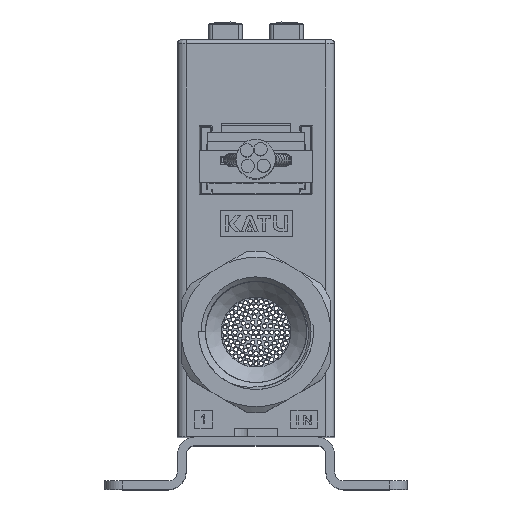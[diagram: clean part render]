
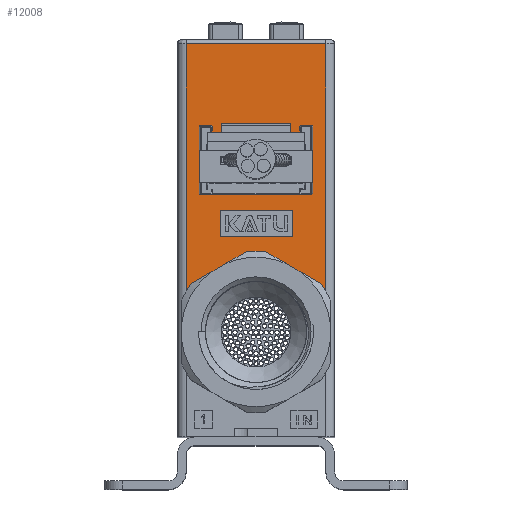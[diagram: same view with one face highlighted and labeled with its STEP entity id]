
A CAD part, top view. The second image highlights one B-rep face of the part: STEP entity #12008.
In plain terms, the highlighted planar face has unit normal (0, 0, 1).
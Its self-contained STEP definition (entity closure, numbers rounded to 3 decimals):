
#145=ELLIPSE('',#45869,0.1,0.1);
#146=ELLIPSE('',#45870,0.1,0.1);
#147=ELLIPSE('',#45871,0.1,0.1);
#148=ELLIPSE('',#45872,0.1,0.1);
#149=ELLIPSE('',#45873,0.1,0.1);
#510=LINE('',#64284,#4410);
#511=LINE('',#64287,#4411);
#512=LINE('',#64289,#4412);
#513=LINE('',#64291,#4413);
#514=LINE('',#64295,#4414);
#515=LINE('',#64297,#4415);
#516=LINE('',#64301,#4416);
#517=LINE('',#64305,#4417);
#518=LINE('',#64307,#4418);
#519=LINE('',#64309,#4419);
#520=LINE('',#64313,#4420);
#521=LINE('',#64317,#4421);
#522=LINE('',#64318,#4422);
#523=LINE('',#64323,#4423);
#524=LINE('',#64325,#4424);
#525=LINE('',#64327,#4425);
#526=LINE('',#64331,#4426);
#4410=VECTOR('',#51025,1.);
#4411=VECTOR('',#51026,1.);
#4412=VECTOR('',#51027,1.);
#4413=VECTOR('',#51028,1.);
#4414=VECTOR('',#51031,1.);
#4415=VECTOR('',#51032,1.);
#4416=VECTOR('',#51035,1.);
#4417=VECTOR('',#51038,1.);
#4418=VECTOR('',#51039,1.);
#4419=VECTOR('',#51040,1.);
#4420=VECTOR('',#51043,1.);
#4421=VECTOR('',#51046,1.);
#4422=VECTOR('',#51047,1.);
#4423=VECTOR('',#51050,1.);
#4424=VECTOR('',#51051,1.);
#4425=VECTOR('',#51052,1.);
#4426=VECTOR('',#51055,1.);
#10561=PLANE('',#45877);
#12008=ADVANCED_FACE('',(#15040,#15041,#15042),#10561,.T.);
#15040=FACE_BOUND('',#16912,.T.);
#15041=FACE_BOUND('',#16913,.T.);
#15042=FACE_BOUND('',#16914,.T.);
#16912=EDGE_LOOP('',(#21163,#21164,#21165,#21166));
#16913=EDGE_LOOP('',(#21167,#21168,#21169,#21170,#21171,#21172,#21173,#21174,
#21175,#21176,#21177,#21178,#21179));
#16914=EDGE_LOOP('',(#21180,#21181,#21182,#21183,#21184,#21185,#21186,#21187));
#21163=ORIENTED_EDGE('',*,*,#37668,.F.);
#21164=ORIENTED_EDGE('',*,*,#37669,.F.);
#21165=ORIENTED_EDGE('',*,*,#37670,.F.);
#21166=ORIENTED_EDGE('',*,*,#37671,.F.);
#21167=ORIENTED_EDGE('',*,*,#37672,.T.);
#21168=ORIENTED_EDGE('',*,*,#37673,.T.);
#21169=ORIENTED_EDGE('',*,*,#37674,.F.);
#21170=ORIENTED_EDGE('',*,*,#37675,.T.);
#21171=ORIENTED_EDGE('',*,*,#37676,.F.);
#21172=ORIENTED_EDGE('',*,*,#37677,.T.);
#21173=ORIENTED_EDGE('',*,*,#37678,.F.);
#21174=ORIENTED_EDGE('',*,*,#37679,.F.);
#21175=ORIENTED_EDGE('',*,*,#37680,.F.);
#21176=ORIENTED_EDGE('',*,*,#37681,.T.);
#21177=ORIENTED_EDGE('',*,*,#37682,.F.);
#21178=ORIENTED_EDGE('',*,*,#37683,.T.);
#21179=ORIENTED_EDGE('',*,*,#37684,.F.);
#21180=ORIENTED_EDGE('',*,*,#37685,.F.);
#21181=ORIENTED_EDGE('',*,*,#37686,.T.);
#21182=ORIENTED_EDGE('',*,*,#37687,.F.);
#21183=ORIENTED_EDGE('',*,*,#37688,.T.);
#21184=ORIENTED_EDGE('',*,*,#37689,.F.);
#21185=ORIENTED_EDGE('',*,*,#37690,.T.);
#21186=ORIENTED_EDGE('',*,*,#37691,.F.);
#21187=ORIENTED_EDGE('',*,*,#37692,.T.);
#33191=VERTEX_POINT('',#64285);
#33192=VERTEX_POINT('',#64286);
#33193=VERTEX_POINT('',#64288);
#33194=VERTEX_POINT('',#64290);
#33195=VERTEX_POINT('',#64293);
#33196=VERTEX_POINT('',#64294);
#33197=VERTEX_POINT('',#64296);
#33198=VERTEX_POINT('',#64298);
#33199=VERTEX_POINT('',#64300);
#33200=VERTEX_POINT('',#64302);
#33201=VERTEX_POINT('',#64304);
#33202=VERTEX_POINT('',#64306);
#33203=VERTEX_POINT('',#64308);
#33204=VERTEX_POINT('',#64310);
#33205=VERTEX_POINT('',#64312);
#33206=VERTEX_POINT('',#64314);
#33207=VERTEX_POINT('',#64316);
#33208=VERTEX_POINT('',#64319);
#33209=VERTEX_POINT('',#64320);
#33210=VERTEX_POINT('',#64322);
#33211=VERTEX_POINT('',#64324);
#33212=VERTEX_POINT('',#64326);
#33213=VERTEX_POINT('',#64328);
#33214=VERTEX_POINT('',#64330);
#33215=VERTEX_POINT('',#64332);
#37668=EDGE_CURVE('',#33191,#33192,#510,.T.);
#37669=EDGE_CURVE('',#33193,#33191,#511,.T.);
#37670=EDGE_CURVE('',#33194,#33193,#512,.T.);
#37671=EDGE_CURVE('',#33192,#33194,#513,.T.);
#37672=EDGE_CURVE('',#33195,#33196,#145,.T.);
#37673=EDGE_CURVE('',#33196,#33197,#514,.T.);
#37674=EDGE_CURVE('',#33198,#33197,#515,.T.);
#37675=EDGE_CURVE('',#33198,#33199,#146,.T.);
#37676=EDGE_CURVE('',#33200,#33199,#516,.T.);
#37677=EDGE_CURVE('',#33200,#33201,#147,.T.);
#37678=EDGE_CURVE('',#33202,#33201,#517,.T.);
#37679=EDGE_CURVE('',#33203,#33202,#518,.T.);
#37680=EDGE_CURVE('',#33204,#33203,#519,.T.);
#37681=EDGE_CURVE('',#33204,#33205,#148,.T.);
#37682=EDGE_CURVE('',#33206,#33205,#520,.T.);
#37683=EDGE_CURVE('',#33206,#33207,#149,.T.);
#37684=EDGE_CURVE('',#33195,#33207,#521,.T.);
#37685=EDGE_CURVE('',#33208,#33209,#522,.T.);
#37686=EDGE_CURVE('',#33208,#33210,#43622,.T.);
#37687=EDGE_CURVE('',#33211,#33210,#523,.T.);
#37688=EDGE_CURVE('',#33211,#33212,#524,.T.);
#37689=EDGE_CURVE('',#33213,#33212,#525,.T.);
#37690=EDGE_CURVE('',#33213,#33214,#43623,.T.);
#37691=EDGE_CURVE('',#33215,#33214,#526,.T.);
#37692=EDGE_CURVE('',#33215,#33209,#43624,.T.);
#43622=CIRCLE('',#45874,8.55);
#43623=CIRCLE('',#45875,8.55);
#43624=CIRCLE('',#45876,8.55);
#45869=AXIS2_PLACEMENT_3D('',#64292,#51029,#51030);
#45870=AXIS2_PLACEMENT_3D('',#64299,#51033,#51034);
#45871=AXIS2_PLACEMENT_3D('',#64303,#51036,#51037);
#45872=AXIS2_PLACEMENT_3D('',#64311,#51041,#51042);
#45873=AXIS2_PLACEMENT_3D('',#64315,#51044,#51045);
#45874=AXIS2_PLACEMENT_3D('',#64321,#51048,#51049);
#45875=AXIS2_PLACEMENT_3D('',#64329,#51053,#51054);
#45876=AXIS2_PLACEMENT_3D('',#64333,#51056,#51057);
#45877=AXIS2_PLACEMENT_3D('',#64334,#51058,#51059);
#51025=DIRECTION('',(0.,-1.,0.));
#51026=DIRECTION('',(-1.,0.,0.));
#51027=DIRECTION('',(0.,1.,0.));
#51028=DIRECTION('',(1.,0.,0.));
#51029=DIRECTION('',(0.,0.,-1.));
#51030=DIRECTION('',(-1.,0.,0.));
#51031=DIRECTION('',(-1.,0.,0.));
#51032=DIRECTION('',(0.,-1.,0.));
#51033=DIRECTION('',(0.,0.,-1.));
#51034=DIRECTION('',(-0.707,0.707,0.));
#51035=DIRECTION('',(-1.,0.,0.));
#51036=DIRECTION('',(0.,0.,-1.));
#51037=DIRECTION('',(0.707,0.707,0.));
#51038=DIRECTION('',(0.,1.,0.));
#51039=DIRECTION('',(-1.,0.,0.));
#51040=DIRECTION('',(0.,-1.,0.));
#51041=DIRECTION('',(0.,0.,-1.));
#51042=DIRECTION('',(-0.707,0.707,0.));
#51043=DIRECTION('',(-1.,0.,0.));
#51044=DIRECTION('',(0.,0.,-1.));
#51045=DIRECTION('',(0.707,0.707,0.));
#51046=DIRECTION('',(0.,1.,0.));
#51047=DIRECTION('',(-0.866,0.5,0.));
#51048=DIRECTION('',(0.,0.,-1.));
#51049=DIRECTION('',(-1.,0.,0.));
#51050=DIRECTION('',(0.,-1.,0.));
#51051=DIRECTION('',(-1.,0.,0.));
#51052=DIRECTION('',(0.,1.,0.));
#51053=DIRECTION('',(0.,0.,-1.));
#51054=DIRECTION('',(-1.,0.,0.));
#51055=DIRECTION('',(-0.866,-0.5,0.));
#51056=DIRECTION('',(0.,0.,-1.));
#51057=DIRECTION('',(-1.,0.,0.));
#51058=DIRECTION('',(0.,0.,1.));
#51059=DIRECTION('',(1.,0.,0.));
#64284=CARTESIAN_POINT('',(22.4,14.938,-13.5));
#64285=CARTESIAN_POINT('',(22.4,14.938,-13.5));
#64286=CARTESIAN_POINT('',(22.4,11.937,-13.5));
#64287=CARTESIAN_POINT('',(30.683,14.938,-13.5));
#64288=CARTESIAN_POINT('',(30.683,14.938,-13.5));
#64289=CARTESIAN_POINT('',(30.683,11.937,-13.5));
#64290=CARTESIAN_POINT('',(30.683,11.937,-13.5));
#64291=CARTESIAN_POINT('',(22.4,11.937,-13.5));
#64292=CARTESIAN_POINT('',(32.9,16.9,-13.5));
#64293=CARTESIAN_POINT('',(33.,16.9,-13.5));
#64294=CARTESIAN_POINT('',(32.9,16.8,-13.5));
#64295=CARTESIAN_POINT('',(0.,16.8,-13.5));
#64296=CARTESIAN_POINT('',(20.,16.8,-13.5));
#64297=CARTESIAN_POINT('',(20.,36.6,-13.5));
#64298=CARTESIAN_POINT('',(20.,24.5,-13.5));
#64299=CARTESIAN_POINT('',(20.1,24.5,-13.5));
#64300=CARTESIAN_POINT('',(20.1,24.6,-13.5));
#64301=CARTESIAN_POINT('',(33.,24.6,-13.5));
#64302=CARTESIAN_POINT('',(21.4,24.6,-13.5));
#64303=CARTESIAN_POINT('',(21.4,24.5,-13.5));
#64304=CARTESIAN_POINT('',(21.5,24.5,-13.5));
#64305=CARTESIAN_POINT('',(21.5,36.9,-13.5));
#64306=CARTESIAN_POINT('',(21.5,23.3,-13.5));
#64307=CARTESIAN_POINT('',(33.,23.3,-13.5));
#64308=CARTESIAN_POINT('',(31.5,23.3,-13.5));
#64309=CARTESIAN_POINT('',(31.5,36.9,-13.5));
#64310=CARTESIAN_POINT('',(31.5,24.5,-13.5));
#64311=CARTESIAN_POINT('',(31.6,24.5,-13.5));
#64312=CARTESIAN_POINT('',(31.6,24.6,-13.5));
#64313=CARTESIAN_POINT('',(33.,24.6,-13.5));
#64314=CARTESIAN_POINT('',(32.9,24.6,-13.5));
#64315=CARTESIAN_POINT('',(32.9,24.5,-13.5));
#64316=CARTESIAN_POINT('',(33.,24.5,-13.5));
#64317=CARTESIAN_POINT('',(33.,36.6,-13.5));
#64318=CARTESIAN_POINT('',(27.59,10.186,-13.5));
#64319=CARTESIAN_POINT('',(31.55,7.9,-13.5));
#64320=CARTESIAN_POINT('',(29.95,8.823,-13.5));
#64321=CARTESIAN_POINT('',(26.5,1.,-13.5));
#64322=CARTESIAN_POINT('',(34.5,4.017,-13.5));
#64323=CARTESIAN_POINT('',(34.5,-14.,-13.5));
#64324=CARTESIAN_POINT('',(34.5,33.99,-13.5));
#64325=CARTESIAN_POINT('',(18.5,33.99,-13.5));
#64326=CARTESIAN_POINT('',(18.5,33.99,-13.5));
#64327=CARTESIAN_POINT('',(18.5,0.,-13.5));
#64328=CARTESIAN_POINT('',(18.5,4.017,-13.5));
#64329=CARTESIAN_POINT('',(26.5,1.,-13.5));
#64330=CARTESIAN_POINT('',(21.45,7.9,-13.5));
#64331=CARTESIAN_POINT('',(19.09,6.537,-13.5));
#64332=CARTESIAN_POINT('',(23.05,8.823,-13.5));
#64333=CARTESIAN_POINT('',(26.5,1.,-13.5));
#64334=CARTESIAN_POINT('',(0.,0.,-13.5));
